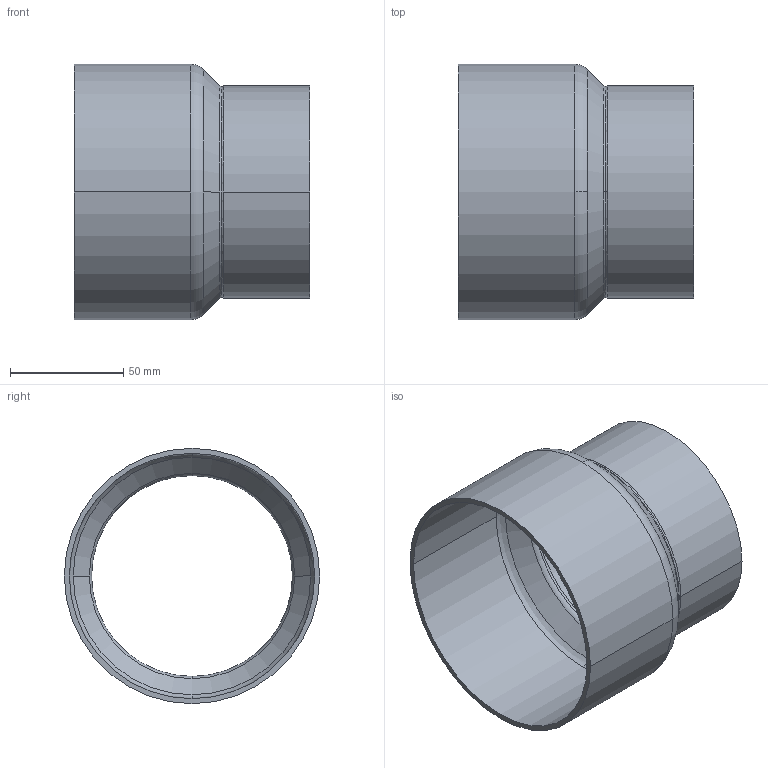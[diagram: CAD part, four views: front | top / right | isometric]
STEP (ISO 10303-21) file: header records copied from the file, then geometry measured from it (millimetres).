
FILE_DESCRIPTION((''),'2;1');
FILE_NAME('G:\Technics\CAD\Bauteile\Serie 15240\1524010889.stp','2005-10-21T13:10:55',('boden'),(''),'Autodesk Inventor 8','Autodesk Inventor 8','');
FILE_SCHEMA(('AUTOMOTIVE_DESIGN { 1 0 10303 214 1 1 1 1 }'));
Length unit declared in the file: millimetre
Products named in the file (1): 1524010889
Bounding box: 104 x 112.6 x 112.6 mm (x, y, z)
Volume: 76008.3 mm3; surface area: 70496.2 mm2
Topology: 1 solids, 1 shells, 26 faces, 68 edges, 44 vertices
Faces by surface type: cylinder 8, torus 6, bspline 6, cone 4, plane 2
Entity records: 1103 total; most frequent: CARTESIAN_POINT 403, DIRECTION 166, ORIENTED_EDGE 136, AXIS2_PLACEMENT_3D 77, EDGE_CURVE 68, CIRCLE 56, VERTEX_POINT 44, EDGE_LOOP 28
